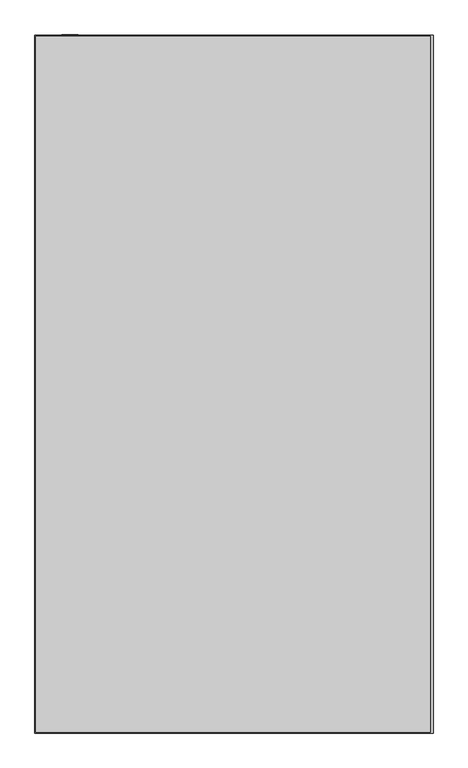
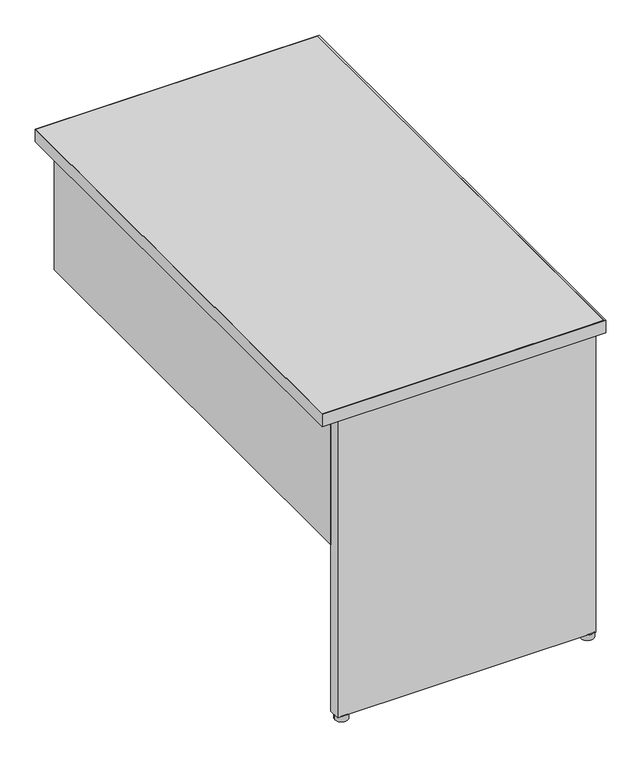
"""IFC4 building model written with IfcOpenShell, lengths in millimetres: furniture geometry, Steelcase - Kick Freestanding - Desk - Return - Partial Height Modesty Panel : 24D x 42W - Left."""

from ifc_helpers import new_model, si_unit, point, frame, frame_2d, origin, origin_with_axes, place, context, project, spatial, polyline, circle_curve, trimmed, segment, composite_curve, outline, extrude, source, transform, mapped, element, save


def furniture_e9873ff4(model_context):
    return source(origin(), model_context, "Body", "SweptSolid", [
        extrude(outline(composite_curve([segment(trimmed(circle_curve(frame_2d((2220.2474425, -1588.2145152)), 13.97), [point((2206.2774425, -1588.2145152))], [point((2234.2174425, -1588.2145152))], False, "CARTESIAN"), True, "CONTINUOUS"), segment(trimmed(circle_curve(frame_2d((2220.2474425, -1588.2145152)), 13.97), [point((2234.2174425, -1588.2145152))], [point((2206.2774425, -1588.2145152))], False, "CARTESIAN"), True, "CONTINUOUS")], self_intersect=False)), origin_with_axes(), (0.0, 0.0, 1.0), 12.7),
        extrude(outline(composite_curve([segment(trimmed(circle_curve(frame_2d((2748.0594425, -1588.2145152)), 13.97), [point((2734.0894425, -1588.2145152))], [point((2762.0294425, -1588.2145152))], False, "CARTESIAN"), True, "CONTINUOUS"), segment(trimmed(circle_curve(frame_2d((2748.0594425, -1588.2145152)), 13.97), [point((2762.0294425, -1588.2145152))], [point((2734.0894425, -1588.2145152))], False, "CARTESIAN"), True, "CONTINUOUS")], self_intersect=False)), origin_with_axes(), (0.0, 0.0, 1.0), 12.7),
        extrude(outline(polyline([(2205.0074425, -1575.6669152), (2328.2736437, -1575.6669152), (2328.2736437, -1598.0951136), (2427.9940467, -1598.0951136), (2427.9940467, -1575.6669041), (2536.7314502, -1575.6669041), (2536.7314502, -1598.0951136), (2636.4518532, -1598.0951136), (2636.4518532, -1575.6669041), (2759.4894376, -1575.6669041), (2759.4894376, -1600.1525098), (2205.0074425, -1600.1525098), (2205.0074425, -1575.6669152)])), frame((0.0, 0.0, 12.7), z_axis=(0.0, 0.0, 1.0), x_axis=(1.0, 0.0, 0.0)), (0.0, 0.0, 1.0), 682.244),
        extrude(outline(polyline([(2230.4074426, -546.0525152), (2230.4074426, -1575.6669152), (2205.0074425, -1575.6669152), (2205.0074425, -546.0525152), (2230.4074426, -546.0525152)])), frame((0.0, 0.0, 390.144), z_axis=(0.0, 0.0, 1.0), x_axis=(1.0, 0.0, 0.0)), (0.0, 0.0, 1.0), 304.8),
        extrude(outline(polyline([(2769.2176592, -548.0845152), (2769.2176592, -1612.3445152), (2164.8500425, -1612.3445152), (2164.8500425, -548.0845152), (2769.2176592, -548.0845152)])), frame((0.0, 0.0, 694.944), z_axis=(0.0, 0.0, 1.0), x_axis=(1.0, 0.0, 0.0)), (0.0, 0.0, 1.0), 28.956),
        extrude(outline(polyline([(2773.4594425, -546.8145152), (2773.4594425, -1613.6145152), (2163.8594425, -1613.6145152), (2163.8594425, -546.8145152), (2773.4594425, -546.8145152)]), holes=[polyline([(2769.2176592, -548.0845152), (2164.8500425, -548.0845152), (2164.8500425, -1612.3445152), (2769.2176592, -1612.3445152), (2769.2176592, -548.0845152)])]), frame((0.0, 0.0, 694.944), z_axis=(0.0, 0.0, 1.0), x_axis=(1.0, 0.0, 0.0)), (0.0, 0.0, 1.0), 28.956),
    ])


if __name__ == "__main__":
    model = new_model("IFC4")
    model_context = context("Model", 3, world=origin())
    ifc_project = project(units=[si_unit("LENGTHUNIT", "METRE", prefix="MILLI")], contexts=[model_context])
    site = spatial("IfcSite", under=ifc_project)
    building = spatial("IfcBuilding", under=site)
    placement = place(None, origin())
    furniture_shape = furniture_e9873ff4(model_context)
    element("IfcFurniture", 1, ObjectType="Steelcase - Kick Freestanding - Desk - Return - Partial Height Modesty Panel : 24D x 42W - Left", at=placement, inside=building, context=model_context, shape_type="MappedRepresentation", body=[
        mapped(furniture_shape, transform((0.0, 0.0, 0.0), x_axis=(1.0, 0.0, 0.0), y_axis=(0.0, 1.0, 0.0), z_axis=(0.0, 0.0, 1.0))),
    ])
    save(model, "model.ifc")
